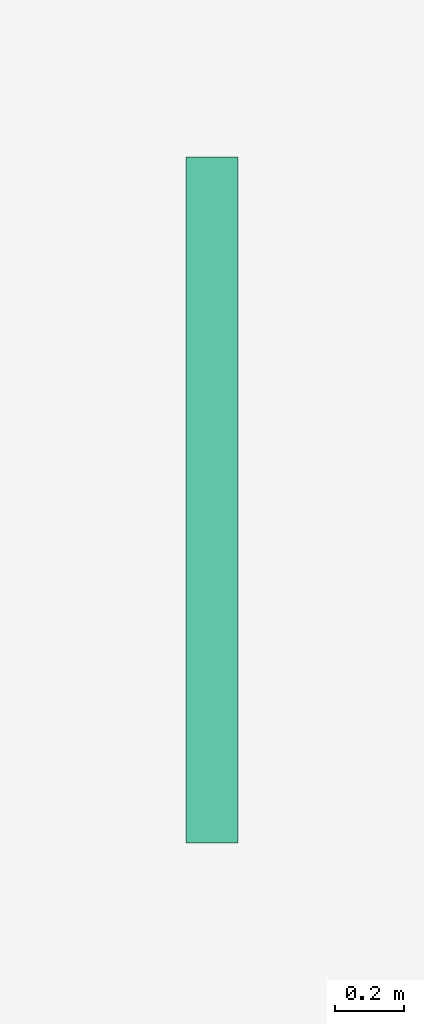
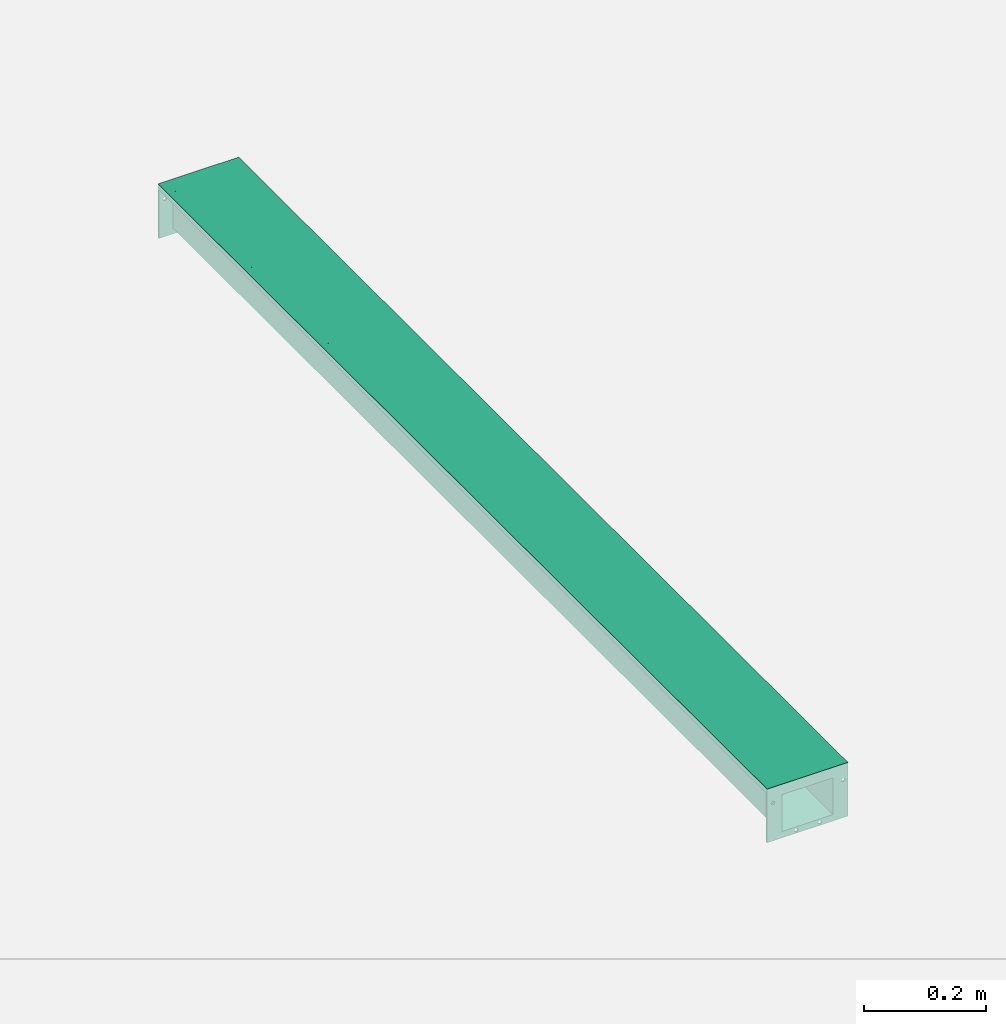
# One storey, part 2 of 2: 1 flow terminal.
"""IFC2X3 building model written with IfcOpenShell, lengths in millimetres."""

import ifcopenshell
import ifcopenshell.guid

model = None  # the IFC model being written
_history = None  # IfcOwnerHistory: only IFC2X3 demands one
_inside = {}  # id of a spatial element -> (the spatial element, [elements in it])
_under = {}  # id of a project, library or spatial element -> (it, [spatial elements below it])
_declared = {}  # id of a project -> (the project, [libraries it declares])
_typed = {}  # id of a type object -> (the type object, [elements of that type])
_made_of = {}  # id of a material, layer set ... -> (it, [elements and type objects made of it])


def new_model(schema):
    """Start an empty IFC model of exactly this schema.

    Asked for "IFC4X3", IfcOpenShell would pick the latest addendum, in which some entities
    have other attributes; the version numbers below select the first issue.
    IFC2X3 requires an IfcOwnerHistory on every rooted entity: one is made here for all.
    """
    global model, _history
    if schema == "IFC4X3":
        model = ifcopenshell.file(schema_version=(4, 3, 0, 0))
    else:
        model = ifcopenshell.file(schema=schema)
    _inside.clear()
    _under.clear()
    _declared.clear()
    _typed.clear()
    _made_of.clear()
    _history = None
    if model.schema == "IFC2X3":
        org = make("IfcOrganization", Name="unknown")
        user = make(
            "IfcPersonAndOrganization",
            ThePerson=make("IfcPerson", FamilyName="unknown"),
            TheOrganization=org,
        )
        app = make(
            "IfcApplication",
            ApplicationDeveloper=org,
            Version="unknown",
            ApplicationFullName="unknown",
            ApplicationIdentifier="unknown",
        )
        _history = make(
            "IfcOwnerHistory",
            OwningUser=user,
            OwningApplication=app,
            ChangeAction="ADDED",
            CreationDate=0,
        )
    return model


def make(cls, **values):
    """One entity of the class cls with the attributes given. An attribute that is None is left unset."""
    return model.create_entity(
        cls, **{name: value for name, value in values.items() if value is not None}
    )


def entity(cls, *values):
    """Any entity or typed value of the class cls, its attributes in the order of the schema. None: left unset."""
    e = model.create_entity(cls)
    for i, value in enumerate(values):
        if value is not None:
            e[i] = value
    return e


def rooted(cls, **values):
    """An entity with a GlobalId (a new one), such as an element, a storey or a relation."""
    return make(cls, GlobalId=ifcopenshell.guid.new(), OwnerHistory=_history, **values)


def si_unit(unit_type, name, prefix=None):
    """IfcSIUnit, for example si_unit("LENGTHUNIT", "METRE", prefix="MILLI")."""
    return make("IfcSIUnit", UnitType=unit_type, Prefix=prefix, Name=name)


def converted_unit(unit_type, name, factor, base, dimensions=None, offset=None):
    """IfcConversionBasedUnit, such as the inch: factor (a typed value) times the base unit."""
    return make(
        "IfcConversionBasedUnit"
        if offset is None
        else "IfcConversionBasedUnitWithOffset",
        ConversionOffset=offset,
        Dimensions=None
        if dimensions is None
        else entity("IfcDimensionalExponents", *dimensions),
        UnitType=unit_type,
        Name=name,
        ConversionFactor=make(
            "IfcMeasureWithUnit", ValueComponent=factor, UnitComponent=base
        ),
    )


def assignment(units):
    """IfcUnitAssignment: the units of a project."""
    return None if units is None else make("IfcUnitAssignment", Units=units)


def point(xyz):
    """IfcCartesianPoint."""
    return None if xyz is None else make("IfcCartesianPoint", Coordinates=xyz)


def direction(xyz):
    """IfcDirection."""
    return None if xyz is None else make("IfcDirection", DirectionRatios=xyz)


def frame(location, z_axis=None, x_axis=None):
    """IfcAxis2Placement3D, a coordinate frame: its origin and axes. An axis left out is left unset."""
    return make(
        "IfcAxis2Placement3D",
        Location=point(location),
        Axis=direction(z_axis),
        RefDirection=direction(x_axis),
    )


def frame_2d(location, x_axis=None):
    """IfcAxis2Placement2D, a coordinate frame in the plane: its origin and x axis."""
    return make(
        "IfcAxis2Placement2D", Location=point(location), RefDirection=direction(x_axis)
    )


def origin():
    """The frame at (0, 0, 0) with its axes left unset."""
    return frame((0.0, 0.0, 0.0))


def origin_2d_with_axis():
    """The frame at (0, 0) in the plane with the x axis (1, 0) written out."""
    return frame_2d((0.0, 0.0), x_axis=(1.0, 0.0))


def place(relative_to, where):
    """IfcLocalPlacement: puts the frame where relative to a parent placement (None: the world)."""
    return make(
        "IfcLocalPlacement", PlacementRelTo=relative_to, RelativePlacement=where
    )


def context(
    kind, dimensions, precision=None, world=None, true_north=None, identifier=None
):
    """IfcGeometricRepresentationContext, for example the 3D "Model" context."""
    return make(
        "IfcGeometricRepresentationContext",
        ContextIdentifier=identifier,
        ContextType=kind,
        CoordinateSpaceDimension=dimensions,
        Precision=precision,
        WorldCoordinateSystem=world,
        TrueNorth=true_north,
    )


def subcontext(parent, identifier, kind, view, scale=None):
    """IfcGeometricRepresentationSubContext, for example "Body" below "Model"."""
    return make(
        "IfcGeometricRepresentationSubContext",
        ContextIdentifier=identifier,
        ContextType=kind,
        ParentContext=parent,
        TargetScale=scale,
        TargetView=view,
    )


def project(units=None, contexts=None):
    """IfcProject with its units and contexts."""
    return rooted(
        "IfcProject",
        Name="project",
        RepresentationContexts=contexts,
        UnitsInContext=assignment(units),
    )


def spatial(cls, under=None, at=None, **own):
    """A site, building, storey or space (cls), placed at a placement, below another one or the project."""
    s = rooted(cls, ObjectPlacement=at, **own)
    if under is not None:
        _under.setdefault(under.id(), (under, []))[1].append(s)
    return s


def polyline(points):
    """IfcPolyline through the points."""
    return make("IfcPolyline", Points=[point(p) for p in points])


def circle_curve(where, radius):
    """IfcCircle in the frame where."""
    return make("IfcCircle", Position=where, Radius=radius)


def parameter(value):
    """IfcParameterValue: where a trimmed curve begins or ends, as a parameter of its basis curve."""
    return model.create_entity("IfcParameterValue", value)


def trimmed(basis, trim1, trim2, sense, master):
    """IfcTrimmedCurve: the piece of a basis curve between two trims."""
    return make(
        "IfcTrimmedCurve",
        BasisCurve=basis,
        Trim1=trim1,
        Trim2=trim2,
        SenseAgreement=sense,
        MasterRepresentation=master,
    )


def segment(curve, same_sense, transition):
    """IfcCompositeCurveSegment."""
    return make(
        "IfcCompositeCurveSegment",
        Transition=transition,
        SameSense=same_sense,
        ParentCurve=curve,
    )


def composite_curve(segments, self_intersect=None):
    """IfcCompositeCurve: segments joined end to end."""
    return make("IfcCompositeCurve", Segments=segments, SelfIntersect=self_intersect)


def profile(cls, at=None, kind="AREA", **sizes):
    """A parametric profile (cls). Its sizes go by their IFC names, for example OverallWidth=200.0."""
    return make(cls, ProfileType=kind, Position=at, **sizes)


def rectangle(**sizes):
    """IfcRectangleProfileDef."""
    return profile("IfcRectangleProfileDef", **sizes)


def outline(outer, holes=None, kind="AREA"):
    """IfcArbitraryClosedProfileDef: a profile drawn as a closed curve; with holes, ...WithVoids."""
    if holes is None:
        return make("IfcArbitraryClosedProfileDef", ProfileType=kind, OuterCurve=outer)
    return make(
        "IfcArbitraryProfileDefWithVoids",
        ProfileType=kind,
        OuterCurve=outer,
        InnerCurves=holes,
    )


def extrude(swept, where, along, depth):
    """IfcExtrudedAreaSolid: the profile swept, set in the frame where, extruded along a direction by depth."""
    return make(
        "IfcExtrudedAreaSolid",
        SweptArea=swept,
        Position=where,
        ExtrudedDirection=direction(along),
        Depth=depth,
    )


def shape(context_of_items, identifier, shape_type, items):
    """IfcShapeRepresentation: the items that make up one representation, for example the "Body"."""
    return make(
        "IfcShapeRepresentation",
        ContextOfItems=context_of_items,
        RepresentationIdentifier=identifier,
        RepresentationType=shape_type,
        Items=items,
    )


def source(mapping_origin, context_of_items, identifier, shape_type, items):
    """IfcRepresentationMap: a shape defined once, which mapped items show again and again."""
    return make(
        "IfcRepresentationMap",
        MappingOrigin=mapping_origin,
        MappedRepresentation=shape(context_of_items, identifier, shape_type, items),
    )


def transform(
    local_origin,
    x_axis=None,
    y_axis=None,
    z_axis=None,
    scale=None,
    scale2=None,
    scale3=None,
    uniform=True,
):
    """IfcCartesianTransformationOperator3D, or its non-uniform kind. x_axis, y_axis, z_axis: its Axis1, 2, 3."""
    if uniform:
        return make(
            "IfcCartesianTransformationOperator3D",
            Axis1=direction(x_axis),
            Axis2=direction(y_axis),
            LocalOrigin=point(local_origin),
            Scale=scale,
            Axis3=direction(z_axis),
        )
    return make(
        "IfcCartesianTransformationOperator3DnonUniform",
        Axis1=direction(x_axis),
        Axis2=direction(y_axis),
        LocalOrigin=point(local_origin),
        Scale=scale,
        Axis3=direction(z_axis),
        Scale2=scale2,
        Scale3=scale3,
    )


def mapped(mapping_source, mapping_target):
    """IfcMappedItem: shows the shape of a source again, moved by a transform."""
    return make(
        "IfcMappedItem", MappingSource=mapping_source, MappingTarget=mapping_target
    )


def material(Name=None, Category=None):
    """IfcMaterial."""
    return make("IfcMaterial", Name=Name, Category=Category)


def material_list(materials):
    """IfcMaterialList."""
    return make("IfcMaterialList", Materials=materials)


def made_of(thing, what):
    """Note that an element or type object is made of a material, layer set ...; save() writes the relation."""
    if what is not None:
        _made_of.setdefault(what.id(), (what, []))[1].append(thing)
    return thing


def element(
    cls,
    number,
    at=None,
    inside=None,
    cuts=None,
    type_object=None,
    material=None,
    context=None,
    identifier="Body",
    shape_type=None,
    held_by="IfcProductDefinitionShape",
    body=None,
    shapes=None,
    **own,
):
    """One element of the class cls, such as IfcWall. Its Tag is "e" and its number.

    at: its placement. inside: the storey or other place that contains it. cuts: it is an
    opening in that element (IfcRelVoidsElement). A single representation is given by context,
    identifier, shape_type and body (its items); several are given by shapes. held_by: the class
    of the entity that holds the representations. save() writes the other relations.
    """
    e = rooted(cls, Tag="e%d" % number, ObjectPlacement=at, **own)
    if body is not None:
        shapes = [shape(context, identifier, shape_type, body)]
    if shapes is not None:
        e.Representation = make(held_by, Representations=shapes)
    if inside is not None:
        _inside.setdefault(inside.id(), (inside, []))[1].append(e)
    if cuts is not None:
        rooted(
            "IfcRelVoidsElement", RelatingBuildingElement=cuts, RelatedOpeningElement=e
        )
    if type_object is not None:
        _typed.setdefault(type_object.id(), (type_object, []))[1].append(e)
    return made_of(e, material)


def aggregate(whole, parts):
    """IfcRelAggregates: a whole, such as a stair, and the parts it consists of."""
    return rooted("IfcRelAggregates", RelatingObject=whole, RelatedObjects=parts)


def save(model, path):
    """Write the relations noted so far, then the file.

    IfcRelAggregates (storeys below a building ...), IfcRelContainedInSpatialStructure (elements
    in a storey), IfcRelDefinesByType, IfcRelAssociatesMaterial and IfcRelDeclares: one each for
    every whole, place, type object, material and project.
    """
    for whole, parts in _under.values():
        aggregate(whole, parts)
    for where, things in _inside.values():
        rooted(
            "IfcRelContainedInSpatialStructure",
            RelatedElements=things,
            RelatingStructure=where,
        )
    for kind, things in _typed.values():
        rooted("IfcRelDefinesByType", RelatedObjects=things, RelatingType=kind)
    for what, things in _made_of.values():
        rooted("IfcRelAssociatesMaterial", RelatedObjects=things, RelatingMaterial=what)
    for by, libraries in _declared.values():
        rooted("IfcRelDeclares", RelatingContext=by, RelatedDefinitions=libraries)
    model.write(path)


model = new_model("IFC2X3")

# Units and contexts
model_context = context("Model", 3, precision=1e-06, world=origin(), true_north=direction((2.0, 6.12303176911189e-17, 1.0)))
context_of_model = context(None, 3, precision=1e-06, world=origin(), true_north=direction((2.0, 6.12303176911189e-17, 1.0)))
body_context = subcontext(model_context, "Body", "Model", "MODEL_VIEW")
ifc_project = project(units=[si_unit("LENGTHUNIT", "METRE", prefix="MILLI"), si_unit("AREAUNIT", "SQUARE_METRE", prefix="MILLI"), si_unit("VOLUMEUNIT", "CUBIC_METRE", prefix="MILLI"), converted_unit("PLANEANGLEUNIT", "DEGREE", entity("IfcRatioMeasure", 0.0174532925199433), si_unit("PLANEANGLEUNIT", "RADIAN"), dimensions=[0, 0, 0, 0, 0, 0, 0]), si_unit("TIMEUNIT", "SECOND")], contexts=[model_context, context_of_model])

# Site, building, storey
site_placement = place(None, origin())
site = spatial("IfcSite", under=ifc_project, at=site_placement, Name="Default", CompositionType="ELEMENT")
building_placement = place(site_placement, origin())
building = spatial("IfcBuilding", under=site, at=building_placement, CompositionType="ELEMENT")
storey_placement = place(building_placement, origin())
storey = spatial("IfcBuildingStorey", under=building, at=storey_placement, Name="Level 1", CompositionType="ELEMENT", Elevation=0.0)

# Flow terminal
ifc_material_1 = material(Name="Stainless Steel AISI 304")
ifc_material_2 = material(Name="Polystyrene, High Impact (F)")
ifc_material_list = material_list([ifc_material_1, ifc_material_2])
shared_shape = source(origin(), body_context, "Body", "SweptSolid", [
    extrude(rectangle(XDim=2000.0, YDim=124.999917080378, at=origin_2d_with_axis()), frame((4.14598109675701e-05, 1000.0, -21.0), z_axis=(0.0, 0.0, 1.0), x_axis=(0.0, 1.0, 0.0)), (0.0, 0.0, 1.0), 20.9999999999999),
    extrude(outline(polyline([(-76.5000276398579, -40.8000000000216), (-62.4999447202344, -40.8000000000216), (-62.4999447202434, -19.8000000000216), (-48.4999447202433, -19.8000000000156), (-48.499944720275, 54.1999999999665), (48.4999723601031, 54.200000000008), (48.4999723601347, -19.7999999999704), (62.4999723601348, -19.7999999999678), (62.4999723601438, -40.7999999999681), (76.4999723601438, -40.7999999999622), (76.4999723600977, 67.0), (-76.500027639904, 67.0), (-76.5000276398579, -40.8000000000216)]), holes=[composite_curve([segment(trimmed(circle_curve(frame_2d((67.7349848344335, -8.90142745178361), x_axis=(1.0, 0.0)), 3.5), [parameter(0.0)], [parameter(180.0)], True, "PARAMETER"), False, "CONTINUOUS"), segment(trimmed(circle_curve(frame_2d((67.7349848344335, -8.9014274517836), x_axis=(1.0, 0.0)), 3.5), [parameter(180.0)], [parameter(360.0)], True, "PARAMETER"), False, "CONTINUOUS")], self_intersect=False), composite_curve([segment(trimmed(circle_curve(frame_2d((23.7349848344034, 60.9218749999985), x_axis=(1.0, 0.0)), 3.5), [parameter(0.0)], [parameter(180.0)], True, "PARAMETER"), False, "CONTINUOUS"), segment(trimmed(circle_curve(frame_2d((23.7349848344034, 60.9218749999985), x_axis=(1.0, 0.0)), 3.5), [parameter(180.0)], [parameter(360.0)], True, "PARAMETER"), False, "CONTINUOUS")], self_intersect=False), composite_curve([segment(trimmed(circle_curve(frame_2d((-21.2650151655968, 60.921874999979), x_axis=(1.0, 0.0)), 3.5), [parameter(179.999999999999)], [parameter(360.0)], True, "PARAMETER"), False, "CONTINUOUS"), segment(trimmed(circle_curve(frame_2d((-21.2650151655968, 60.921874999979), x_axis=(1.0, 0.0)), 3.5), [parameter(360.0)], [parameter(180.0)], True, "PARAMETER"), False, "CONTINUOUS")], self_intersect=False), composite_curve([segment(trimmed(circle_curve(frame_2d((-65.2650151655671, -8.90142745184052), x_axis=(1.0, 0.0)), 3.5), [parameter(179.999999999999)], [parameter(360.0)], True, "PARAMETER"), False, "CONTINUOUS"), segment(trimmed(circle_curve(frame_2d((-65.2650151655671, -8.90142745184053), x_axis=(1.0, 0.0)), 3.5), [parameter(0.0)], [parameter(180.0)], True, "PARAMETER"), False, "CONTINUOUS")], self_intersect=False)]), frame((2.7639875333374e-05, 1997.0, -40.8000000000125), z_axis=(0.0, 1.0, 0.0), x_axis=(1.0, 0.0, 0.0)), (0.0, 0.0, 1.0), 2.99999999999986),
    extrude(outline(polyline([(-76.4999585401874, -40.80000137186), (-62.4999585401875, -40.80000137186), (-62.4999585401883, -19.8000013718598), (-48.4999585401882, -19.8000013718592), (-48.4999585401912, 54.1999986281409), (48.4999585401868, 54.1999986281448), (48.4999585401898, -19.8000013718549), (62.4999585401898, -19.8000013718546), (62.4999585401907, -40.800001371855), (76.4999585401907, -40.8000013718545), (76.4999585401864, 67.0000068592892), (-76.4999585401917, 67.0000068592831), (-76.4999585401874, -40.80000137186)]), holes=[composite_curve([segment(trimmed(circle_curve(frame_2d((67.7349710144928, -8.9014288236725), x_axis=(1.0, 0.0)), 3.5), [parameter(0.0)], [parameter(180.0)], True, "PARAMETER"), False, "CONTINUOUS"), segment(trimmed(circle_curve(frame_2d((67.7349710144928, -8.90142882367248), x_axis=(1.0, 0.0)), 3.5), [parameter(180.0)], [parameter(0.0)], True, "PARAMETER"), False, "CONTINUOUS")], self_intersect=False), composite_curve([segment(trimmed(circle_curve(frame_2d((23.7349710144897, 60.9218818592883), x_axis=(1.0, 0.0)), 3.5), [parameter(0.0)], [parameter(180.0)], True, "PARAMETER"), False, "CONTINUOUS"), segment(trimmed(circle_curve(frame_2d((23.7349710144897, 60.9218818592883), x_axis=(1.0, 0.0)), 3.5), [parameter(180.0)], [parameter(359.999999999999)], True, "PARAMETER"), False, "CONTINUOUS")], self_intersect=False), composite_curve([segment(trimmed(circle_curve(frame_2d((-21.2650289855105, 60.9218818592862), x_axis=(1.0, 0.0)), 3.5), [parameter(180.0)], [parameter(360.0)], True, "PARAMETER"), False, "CONTINUOUS"), segment(trimmed(circle_curve(frame_2d((-21.2650289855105, 60.9218818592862), x_axis=(1.0, 0.0)), 3.5), [parameter(360.0)], [parameter(180.0)], True, "PARAMETER"), False, "CONTINUOUS")], self_intersect=False), composite_curve([segment(trimmed(circle_curve(frame_2d((-65.2650289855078, -8.90142882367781), x_axis=(1.0, 0.0)), 3.5), [parameter(180.0)], [parameter(0.0)], True, "PARAMETER"), False, "CONTINUOUS"), segment(trimmed(circle_curve(frame_2d((-65.2650289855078, -8.90142882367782), x_axis=(1.0, 0.0)), 3.5), [parameter(0.0)], [parameter(180.0)], True, "PARAMETER"), False, "CONTINUOUS")], self_intersect=False)]), frame((4.14598109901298e-05, 0.0, -40.8000013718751), z_axis=(0.0, 1.0, 0.0), x_axis=(1.0, 0.0, 0.0)), (0.0, 0.0, 1.0), 3.0),
    extrude(outline(polyline([(-25.1243423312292, -62.4999585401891), (-25.1243423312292, -76.499958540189), (-15.1243423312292, -76.499958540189), (-15.1243423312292, -74.999958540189), (-23.6243423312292, -74.999958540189), (-23.6243423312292, -63.9999585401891), (-2.62434233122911, -63.9999585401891), (-2.62434233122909, -49.999958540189), (71.3717116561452, -49.999958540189), (71.3717116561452, 49.999958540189), (-2.62434233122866, 49.999958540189), (-2.62434233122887, 63.999958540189), (-23.624342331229, 63.9999585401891), (-23.6243423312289, 74.9999585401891), (-15.1243423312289, 74.9999585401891), (-15.1243423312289, 76.4999585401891), (-25.1243423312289, 76.4999585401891), (-25.124342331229, 62.4999585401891), (-4.12434233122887, 62.499958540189), (-4.12434233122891, 48.499958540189), (69.8717116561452, 48.499958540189), (69.8717116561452, -48.499958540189), (-4.12434233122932, -48.499958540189), (-4.12434233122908, -62.4999585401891), (-25.1243423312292, -62.4999585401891)])), frame((4.14598110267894e-05, 3.0, -25.1282883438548), z_axis=(0.0, -1.0, 0.0), x_axis=(0.0, 0.0, -1.0)), (0.0, 0.0, -1.0), 1994.0),
    extrude(rectangle(XDim=1997.0, YDim=11.0, at=frame_2d((-1.13686837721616e-13, 0.0), x_axis=(1.0, 0.0))), frame((69.5000000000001, 1001.5, -10.0), z_axis=(0.0, 0.0, 1.0), x_axis=(0.0, 1.0, 0.0)), (0.0, 0.0, 1.0), 8.50000000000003),
    extrude(rectangle(XDim=1997.0, YDim=10.9999999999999, at=frame_2d((-1.13686837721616e-13, 0.0), x_axis=(1.0, 0.0))), frame((-69.499917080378, 1001.5, -10.0), z_axis=(0.0, 0.0, 1.0), x_axis=(0.0, 1.0, 0.0)), (0.0, 0.0, 1.0), 8.50000000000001),
])
flow_terminal_placement = place(storey_placement, frame((-82.2883701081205, -967.950501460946, 0.0)))
element("IfcFlowTerminal", 1, at=flow_terminal_placement, inside=storey, material=ifc_material_list, Name="ACO BD Modular 125 Level Invert Straight Channels:105138 - Straight Channel - 2000mm LG - Invert Depth 95mm:105138 - Straight Channel - 2000mm LG - Invert Depth 95mm", ObjectType="105138 - Straight Channel - 2000mm LG - Invert Depth 95mm", context=body_context, shape_type="MappedRepresentation", body=[
    mapped(shared_shape, transform((0.0, 0.0, 0.0), scale=1.0)),
])

save(model, "model.ifc")
